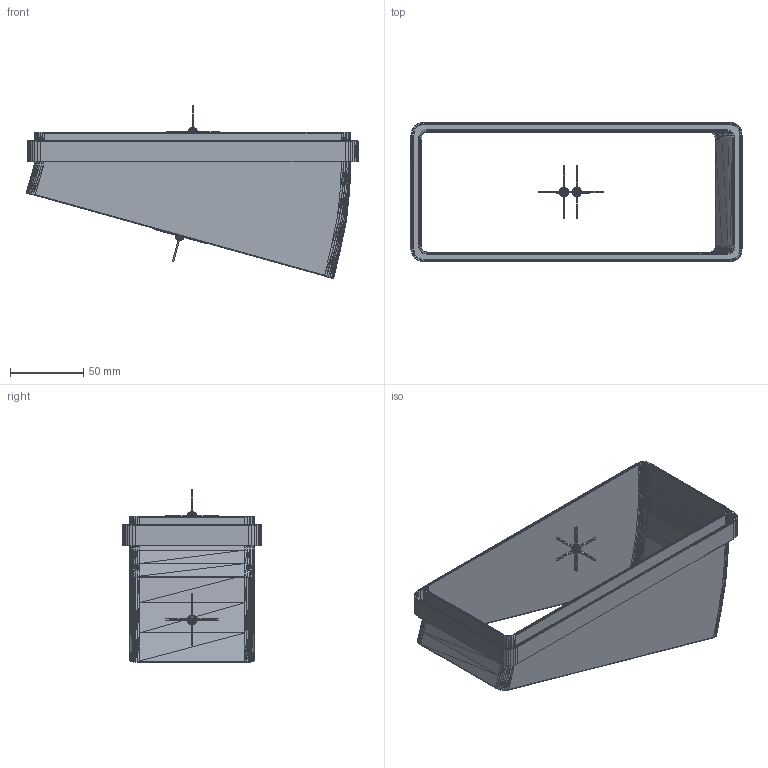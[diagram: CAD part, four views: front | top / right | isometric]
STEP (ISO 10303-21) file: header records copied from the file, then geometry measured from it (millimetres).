
FILE_DESCRIPTION(('FreeCAD Model'),'2;1');
FILE_NAME('Open CASCADE Shape Model','2024-04-12T18:17:35',('Author'),( ''),'Open CASCADE STEP processor 7.6','FreeCAD','Unknown');
FILE_SCHEMA(('AUTOMOTIVE_DESIGN { 1 0 10303 214 1 1 1 1 }'));
Length unit declared in the file: millimetre
Products named in the file (5): Unnamed; Tube_002 (Solid); _Cross_b_002 (Solid); _Cross_f_002 (Solid); Object001_002 (Solid)
Assembly tree (4 placements, depth 2):
  Unnamed
    Tube_002 (Solid)
    _Cross_b_002 (Solid)
    _Cross_f_002 (Solid)
    Object001_002 (Solid)
Bounding box: 226.01 x 95 x 117.59 mm (x, y, z)
Volume: 69686.4 mm3; surface area: 110115.3 mm2
Topology: 3 solids, 4 shells, 4762 faces, 7551 edges, 2796 vertices
Faces by surface type: plane 4762
Entity records: 96617 total; most frequent: DIRECTION 17085, CARTESIAN_POINT 15114, ORIENTED_EDGE 15030, EDGE_CURVE 7551, LINE 7551, VECTOR 7551, AXIS2_PLACEMENT_3D 4767, FACE_BOUND 4765
